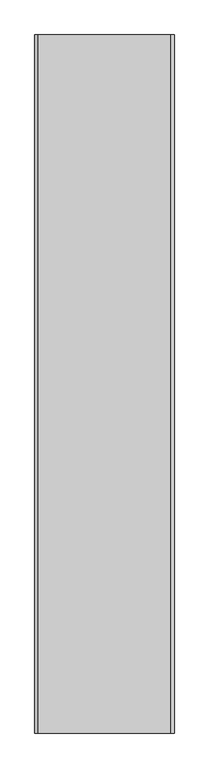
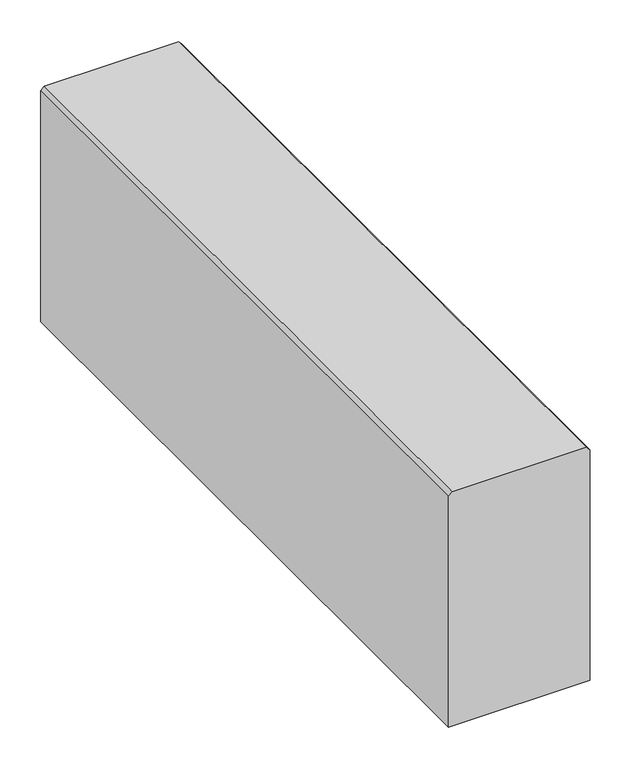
"""IFC4 building model written with IfcOpenShell, lengths in millimetres: railing geometry, BORDILLO_A80_TITAN_80x35x20."""

from ifc_helpers import new_model, si_unit, frame, origin, place, context, project, spatial, polyline, outline, extrude, source, transform, mapped, element, save


def railing_4209f9cf(model_context):
    return source(origin(), model_context, "Body", "SweptSolid", [
        extrude(outline(polyline([(0.0, -2563.993975), (345.0, -2563.993975), (350.0, -2568.993975), (350.0, -2758.993975), (345.0, -2763.993975), (0.0, -2763.993975), (0.0, -2563.993975)])), frame((0.0, 4496.2300366, 0.0), z_axis=(0.0, 1.0, 0.0), x_axis=(0.0, 0.0, 1.0)), (0.0, 0.0, 1.0), 1000.0),
    ])


if __name__ == "__main__":
    model = new_model("IFC4")
    model_context = context("Model", 3, world=origin())
    ifc_project = project(units=[si_unit("LENGTHUNIT", "METRE", prefix="MILLI")], contexts=[model_context])
    site = spatial("IfcSite", under=ifc_project)
    building = spatial("IfcBuilding", under=site)
    placement = place(None, origin())
    railing_shape = railing_4209f9cf(model_context)
    element("IfcRailing", 1, ObjectType="BORDILLO_A80_TITAN_80x35x20", at=placement, inside=building, context=model_context, shape_type="MappedRepresentation", body=[
        mapped(railing_shape, transform((0.0, 0.0, 0.0), x_axis=(1.0, 0.0, 0.0), y_axis=(0.0, 1.0, 0.0), z_axis=(0.0, 0.0, 1.0))),
    ])
    save(model, "model.ifc")
